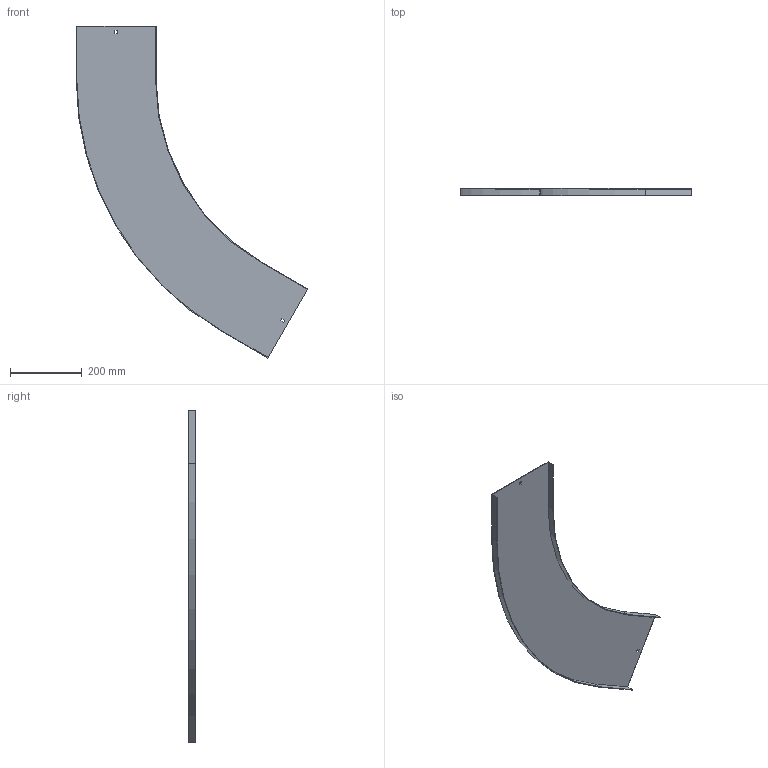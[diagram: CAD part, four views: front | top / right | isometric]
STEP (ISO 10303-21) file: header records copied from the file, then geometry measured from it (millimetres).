
FILE_DESCRIPTION (( 'STEP AP214' ), '1' );
FILE_NAME ('13N6P200.step', '2025-02-21T13:35:59', ( '' ), ( '' ), 'SwSTEP 2.0', 'SolidWorks 2023', '' );
FILE_SCHEMA (( 'AUTOMOTIVE_DESIGN' ));
Length unit declared in the file: millimetre
Products named in the file (1): 13N6P200
Bounding box: 647.15 x 20 x 927.78 mm (x, y, z)
Volume: 402709.4 mm3; surface area: 540918 mm2
Topology: 1 solids, 1 shells, 26 faces, 72 edges, 48 vertices
Faces by surface type: plane 22, cylinder 4
Entity records: 855 total; most frequent: CARTESIAN_POINT 147, ORIENTED_EDGE 144, DIRECTION 134, EDGE_CURVE 72, VECTOR 64, LINE 64, VERTEX_POINT 48, AXIS2_PLACEMENT_3D 35
